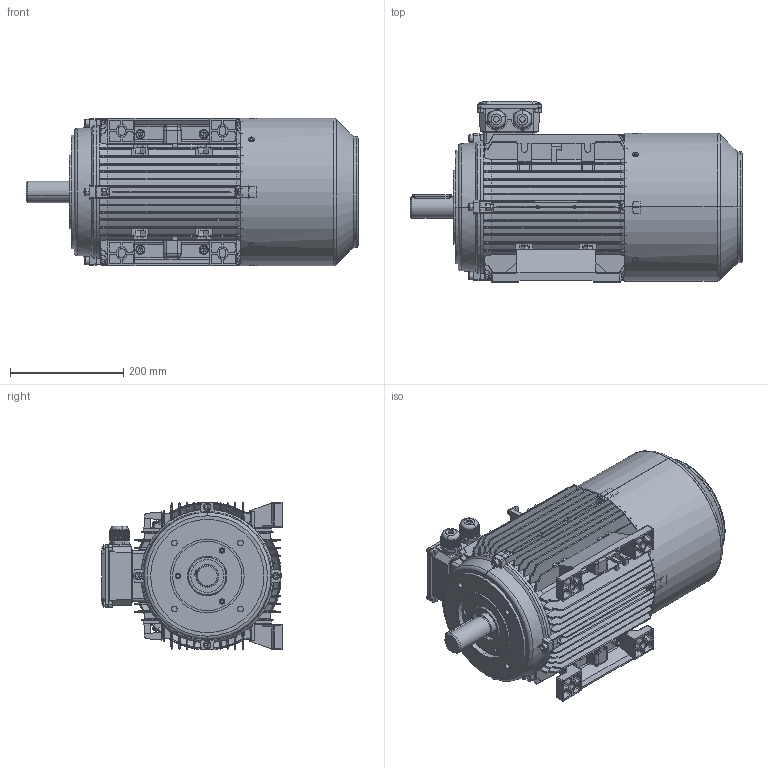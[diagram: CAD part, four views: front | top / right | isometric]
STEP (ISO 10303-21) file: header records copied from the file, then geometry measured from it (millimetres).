
FILE_DESCRIPTION (( 'STEP AP203' ), '1' );
FILE_NAME ('TB132M B34（风罩不带手柄孔）.STEP', '2021-10-26T01:47:24', ( '' ), ( '' ), 'SwSTEP 2.0', 'SolidWorks 2014', '' );
FILE_SCHEMA (( 'CONFIG_CONTROL_DESIGN' ));
Length unit declared in the file: millimetre
Products named in the file (17): TB132瑞欶(祥湍忒梟謂); T132M儂褲; Cross recessed thread forming screws GB_GB_CROSS_SCREWS_TYPE138 M5X12-N; TB132M B34（风罩不带手柄孔）; 112-132堤盄蹟杶; MS132諉盄碟裔; Hexagon nuts grade C GB_GB_FASTENER_NUT_SNC1 M10-N; 112怢宒瑞珔; T132M菁褐; Plain parallel keys_GB_CONNECTING_PIECE_KEYS_CSK 10X70; Hexagon socket head cap screws GB_GB_FASTENER_SCREWS_HSHCS M8X35-N; TB132M蛌粣; Hexagon nuts grade C GB_GB_FASTENER_NUT_SNC1 M8-N; TA132B14楊擘1; TB132綴裔; MS132諉盄碟釱; Hexagon socket head cap screws GB_GB_FASTENER_SCREWS_HSHCS M10X30-N
Assembly tree (45 placements, depth 2):
  TB132M B34（风罩不带手柄孔）
    T132M儂褲
    T132M菁褐  x2
    TB132綴裔
    112-132堤盄蹟杶  x2
    Hexagon socket head cap screws GB_GB_FASTENER_SCREWS_HSHCS M8X35-N  x8
    Hexagon socket head cap screws GB_GB_FASTENER_SCREWS_HSHCS M10X30-N  x4
    Hexagon nuts grade C GB_GB_FASTENER_NUT_SNC1 M10-N  x4
    Hexagon nuts grade C GB_GB_FASTENER_NUT_SNC1 M8-N  x8
    Cross recessed thread forming screws GB_GB_CROSS_SCREWS_TYPE138 M5X12-N  x8
    Plain parallel keys_GB_CONNECTING_PIECE_KEYS_CSK 10X70
    MS132諉盄碟釱
    MS132諉盄碟裔
    TB132M蛌粣
    TB132瑞欶(祥湍忒梟謂)
    112怢宒瑞珔
    TA132B14楊擘1
Bounding box: 586 x 318 x 261.1 mm (x, y, z)
Volume: 4085622.5 mm3; surface area: 2052111.5 mm2
Topology: 45 solids, 45 shells, 5819 faces, 15812 edges, 10022 vertices
Faces by surface type: plane 3097, cylinder 1415, bspline 701, cone 377, torus 205, sphere 24
Entity records: 183165 total; most frequent: CARTESIAN_POINT 65770, ORIENTED_EDGE 26152, DIRECTION 20873, EDGE_CURVE 13076, VERTEX_POINT 8384, LINE 7231, VECTOR 7231, AXIS2_PLACEMENT_3D 6821
